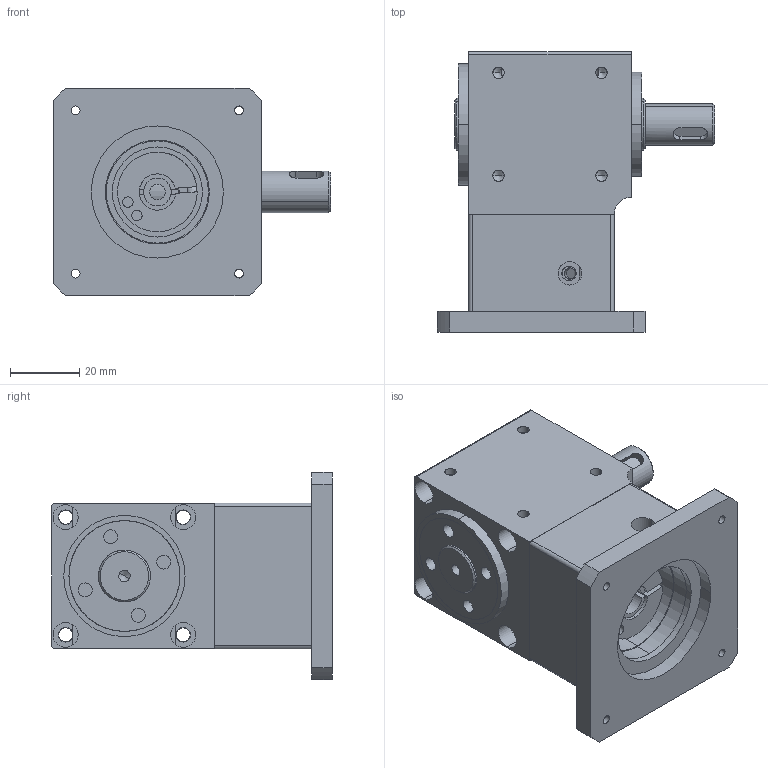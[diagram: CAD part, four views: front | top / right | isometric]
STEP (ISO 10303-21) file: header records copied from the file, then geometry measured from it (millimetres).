
FILE_DESCRIPTION (( 'STEP AP203' ), '1' );
FILE_NAME ('PVFD040-L1-T-8-38.1-66.7.STEP', '2025-06-13T09:24:26', ( 'Windows User' ), ( 'P R C' ), 'SwSTEP 2.0', 'SolidWorks 2016', '' );
FILE_SCHEMA (( 'CONFIG_CONTROL_DESIGN' ));
Length unit declared in the file: millimetre
Products named in the file (12): deep groove ball bearings gb_Rolling bearings 6002 GB 276-94; 褲极; deep groove ball bearings gb_Rolling bearings 61902 GB 276-94; 怀堤粣ㄗ等粣ㄘ; 綴楊擘 57祭輛; 输入轴; PVFD040-L1-T-8-38.1-66.7; 蹟譫; 蹟譫ㄗ2ㄘ; 標杶ㄗ1ㄘ; 綴楊擘ㄗ侂狟100Wㄘ; deep groove ball bearings gb_Rolling bearings 6001 GB 276-94
Assembly tree (11 placements, depth 2):
  PVFD040-L1-T-8-38.1-66.7
    褲极
    怀堤粣ㄗ等粣ㄘ
    输入轴
    蹟譫
    蹟譫ㄗ2ㄘ
    標杶ㄗ1ㄘ
    綴楊擘ㄗ侂狟100Wㄘ
    deep groove ball bearings gb_Rolling bearings 6001 GB 276-94
    deep groove ball bearings gb_Rolling bearings 6002 GB 276-94
    deep groove ball bearings gb_Rolling bearings 61902 GB 276-94
    綴楊擘 57祭輛
Bounding box: 80 x 81 x 60 mm (x, y, z)
Volume: 117591.9 mm3; surface area: 64605.6 mm2
Topology: 12 solids, 12 shells, 1302 faces, 3744 edges, 2442 vertices
Faces by surface type: plane 525, bspline 451, cylinder 256, cone 70
Entity records: 58387 total; most frequent: CARTESIAN_POINT 25896, ORIENTED_EDGE 7404, DIRECTION 5202, EDGE_CURVE 3702, VERTEX_POINT 2442, AXIS2_PLACEMENT_3D 1772, VECTOR 1658, LINE 1658
